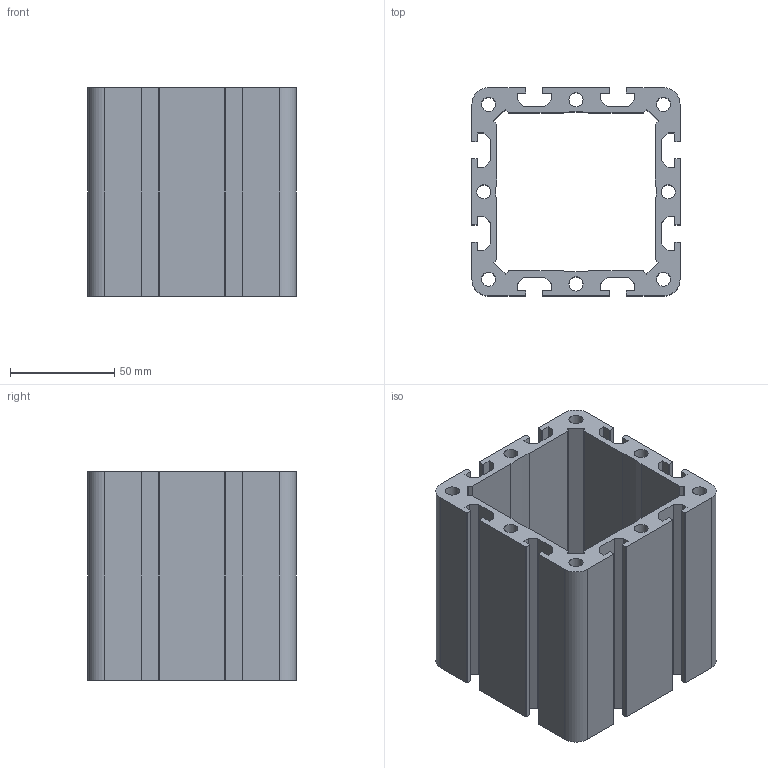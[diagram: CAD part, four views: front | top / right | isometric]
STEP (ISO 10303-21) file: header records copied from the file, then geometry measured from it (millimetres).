
FILE_DESCRIPTION(('STEP AP214'), '1');
FILE_NAME('Ïðîôèëü àëþìèíèåâûé HÑ100100-8', '', ('UNSPECIFIED'), ('UNSPECIFIED'), 'ASCON STEP Converter 1.6', 'ASCON Math Kernel', '');
FILE_SCHEMA(('AUTOMOTIVE_DESIGN { 1 0 10303 214 3 1 1}'));
Length unit declared in the file: millimetre
Bounding box: 100 x 100 x 100 mm (x, y, z)
Volume: 293332.4 mm3; surface area: 116817.9 mm2
Topology: 1 solids, 1 shells, 170 faces, 504 edges, 336 vertices
Faces by surface type: plane 106, cylinder 64
Full cylindrical faces by diameter (mm): 6.8 x8
Entity records: 7091 total; most frequent: CARTESIAN_POINT 1003, ORIENTED_EDGE 992, DIRECTION 966, EDGE_CURVE 496, LINE 368, VECTOR 368, VERTEX_POINT 336, AXIS2_PLACEMENT_3D 299
